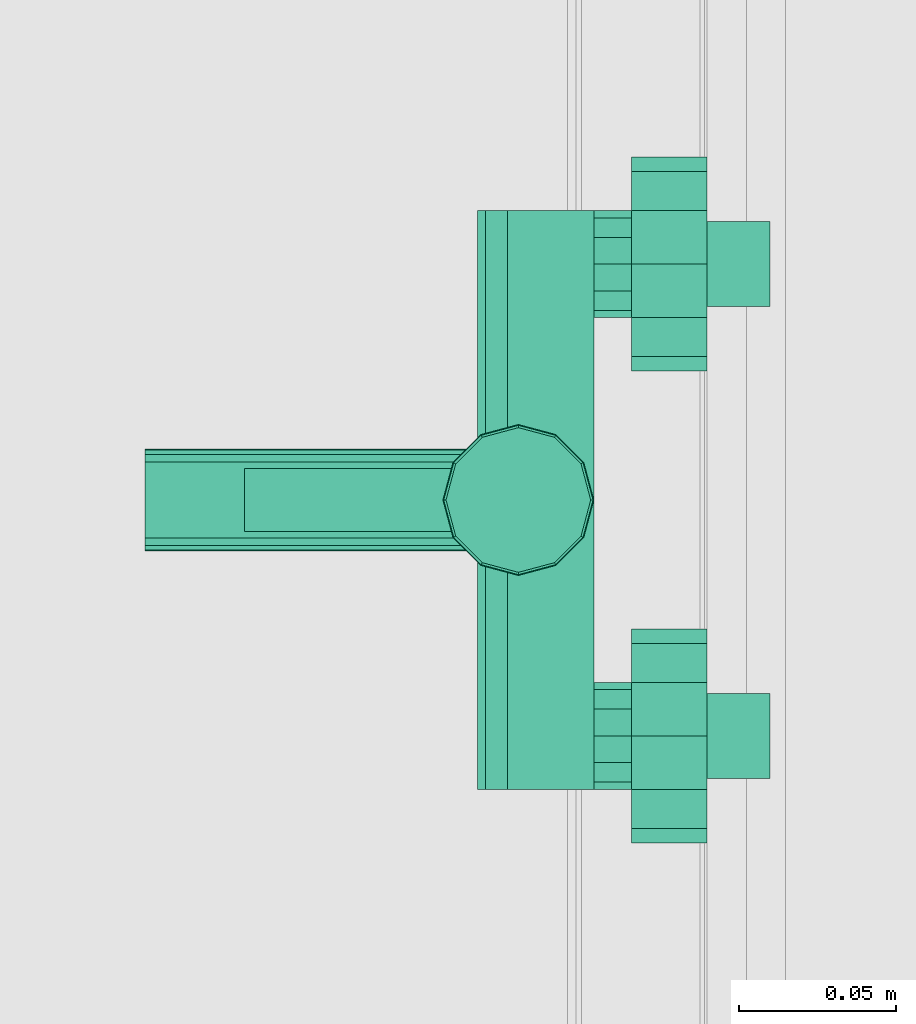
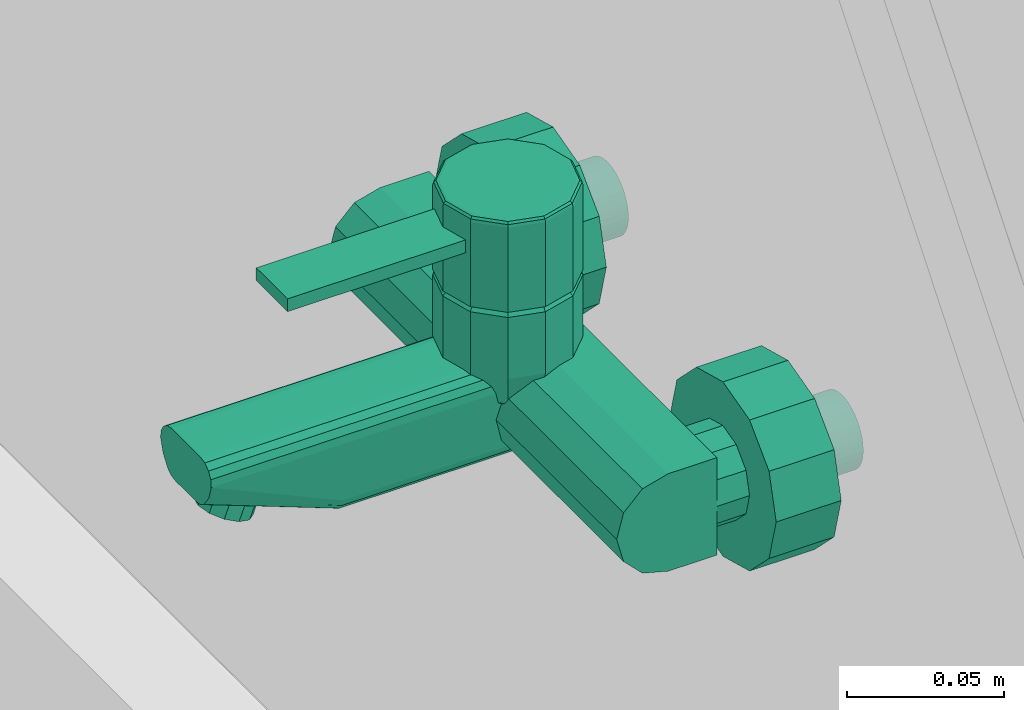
# One storey, part 110 of 137: 1 flow storage device.
"""IFC2X3 building model written with IfcOpenShell, lengths in millimetres."""

from ifc_helpers import new_model, entity, si_unit, converted_unit, derived_unit, money_unit, direction, frame, origin_with_axes, place, context, subcontext, project, spatial, open_shell, faceted_brep, surface_model, source, transform, mapped, type_object, type_shapes, element, save


model = new_model("IFC2X3")

# Units and contexts
model_context = context("Model", 3, precision=0.01, world=origin_with_axes(), true_north=direction((0.0, 1.0)))
body_context = subcontext(model_context, "Body", "Model", "MODEL_VIEW")
ifc_project = project(units=[si_unit("LENGTHUNIT", "METRE", prefix="MILLI"), si_unit("AREAUNIT", "SQUARE_METRE"), si_unit("VOLUMEUNIT", "CUBIC_METRE"), converted_unit("PLANEANGLEUNIT", "DEGREE", entity("IfcPlaneAngleMeasure", 0.0174532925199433), si_unit("PLANEANGLEUNIT", "RADIAN"), dimensions=[0, 0, 0, 0, 0, 0, 0]), money_unit("EUR"), converted_unit("TIMEUNIT", "Year", entity("IfcTimeMeasure", 31556926.0), si_unit("TIMEUNIT", "SECOND"), dimensions=[0, 0, 1, 0, 0, 0, 0]), si_unit("MASSUNIT", "GRAM", prefix="KILO"), si_unit("THERMODYNAMICTEMPERATUREUNIT", "DEGREE_CELSIUS"), si_unit("LUMINOUSINTENSITYUNIT", "LUMEN"), si_unit("ENERGYUNIT", "JOULE", prefix="MEGA"), derived_unit("THERMALCONDUCTANCEUNIT", [(si_unit("POWERUNIT", "WATT"), 1), (si_unit("LENGTHUNIT", "METRE"), -1), (si_unit("THERMODYNAMICTEMPERATUREUNIT", "KELVIN"), -1)]), derived_unit("SPECIFICHEATCAPACITYUNIT", [(si_unit("ENERGYUNIT", "JOULE"), 1), (si_unit("MASSUNIT", "GRAM", prefix="KILO"), -1), (si_unit("THERMODYNAMICTEMPERATUREUNIT", "KELVIN"), -1)]), derived_unit("MASSDENSITYUNIT", [(si_unit("MASSUNIT", "GRAM", prefix="KILO"), 1), (si_unit("VOLUMEUNIT", "CUBIC_METRE"), -1)])], contexts=[model_context])

# Site, building, storey
site_placement = place(None, origin_with_axes())
site = spatial("IfcSite", under=ifc_project, at=site_placement, Name="Site", CompositionType="ELEMENT")
building_placement = place(site_placement, origin_with_axes())
building = spatial("IfcBuilding", under=site, at=building_placement, Name="Naam gebouw", CompositionType="ELEMENT")
storey_placement = place(building_placement, frame((0.0, 0.0, 3960.0), z_axis=(0.0, 0.0, 1.0), x_axis=(1.0, 0.0, 0.0)))
storey = spatial("IfcBuildingStorey", under=building, at=storey_placement, Name="1e verdieping", CompositionType="ELEMENT", Elevation=3960.0)

# Flow storage device
tank_type = type_object("IfcTankType", Name="Kraan wand 26", PredefinedType="EXPANSION")
shared_shape = source(origin_with_axes(), body_context, "Body", "SurfaceModel", [
    faceted_brep([(-45.55513627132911, 0.0, 1183.0), (-58.00000000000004, 0.0, 1170.555136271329), (-75.00000000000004, 0.0, 1166.0), (-92.00000000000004, 0.0, 1170.555136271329), (-104.4448637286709, 0.0, 1183.0), (-109.0, 0.0, 1200.0), (-104.4448637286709, 0.0, 1217.0), (-92.0, 0.0, 1229.444863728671), (-75.0, 0.0, 1234.0), (-58.0, 0.0, 1229.444863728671), (-45.5551362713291, 0.0, 1217.0), (-41.00000000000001, 0.0, 1200.0), (-45.55513627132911, -24.0, 1183.0), (-58.00000000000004, -24.0, 1170.555136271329), (-75.00000000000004, -24.0, 1166.0), (-92.00000000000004, -24.0, 1170.555136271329), (-104.4448637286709, -24.0, 1183.0), (-109.0, -24.0, 1200.0), (-104.4448637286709, -24.0, 1217.0), (-92.0, -24.0, 1229.444863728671), (-75.0, -24.0, 1234.0), (-58.0, -24.0, 1229.444863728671), (-45.5551362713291, -24.0, 1217.0), (-41.00000000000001, -24.0, 1200.0)], [[[0, 1, 2, 3, 4, 5, 6, 7, 8, 9, 10, 11]], [[1, 0, 12, 13]], [[2, 1, 13, 14]], [[3, 2, 14, 15]], [[4, 3, 15, 16]], [[5, 4, 16, 17]], [[6, 5, 17, 18]], [[7, 6, 18, 19]], [[8, 7, 19, 20]], [[9, 8, 20, 21]], [[10, 9, 21, 22]], [[11, 10, 22, 23]], [[0, 11, 23, 12]], [[12, 23, 22, 21, 20, 19, 18, 17, 16, 15, 14, 13]]]),
    faceted_brep([(-60.27756813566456, -24.0, 1191.5), (-66.50000000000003, -24.0, 1185.277568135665), (-75.00000000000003, -24.0, 1183.0), (-83.50000000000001, -24.0, 1185.277568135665), (-89.72243186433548, -24.0, 1191.5), (-92.00000000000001, -24.0, 1200.0), (-89.72243186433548, -24.0, 1208.5), (-83.5, -24.0, 1214.722431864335), (-75.00000000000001, -24.0, 1217.0), (-66.5, -24.0, 1214.722431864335), (-60.27756813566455, -24.0, 1208.5), (-58.00000000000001, -24.0, 1200.0), (-60.27756813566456, -36.00000000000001, 1191.5), (-66.50000000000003, -36.00000000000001, 1185.277568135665), (-75.00000000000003, -36.00000000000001, 1183.0), (-83.50000000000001, -36.00000000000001, 1185.277568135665), (-89.72243186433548, -36.00000000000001, 1191.5), (-92.00000000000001, -36.00000000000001, 1200.0), (-89.72243186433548, -36.00000000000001, 1208.5), (-83.5, -36.0, 1214.722431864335), (-75.00000000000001, -36.0, 1217.0), (-66.5, -36.0, 1214.722431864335), (-60.27756813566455, -36.00000000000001, 1208.5), (-58.00000000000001, -36.00000000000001, 1200.0)], [[[0, 1, 2, 3, 4, 5, 6, 7, 8, 9, 10, 11]], [[1, 0, 12, 13]], [[2, 1, 13, 14]], [[3, 2, 14, 15]], [[4, 3, 15, 16]], [[5, 4, 16, 17]], [[6, 5, 17, 18]], [[7, 6, 18, 19]], [[8, 7, 19, 20]], [[9, 8, 20, 21]], [[10, 9, 21, 22]], [[11, 10, 22, 23]], [[0, 11, 23, 12]], [[12, 23, 22, 21, 20, 19, 18, 17, 16, 15, 14, 13]]]),
    faceted_brep([(45.55513627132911, 0.0, 1183.0), (41.00000000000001, 0.0, 1200.0), (45.5551362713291, 0.0, 1217.0), (58.0, 0.0, 1229.444863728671), (75.0, 0.0, 1234.0), (92.0, 0.0, 1229.444863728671), (104.4448637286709, 0.0, 1217.0), (109.0, 0.0, 1200.0), (104.4448637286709, 0.0, 1183.0), (92.00000000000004, 0.0, 1170.555136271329), (75.00000000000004, 0.0, 1166.0), (58.00000000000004, 0.0, 1170.555136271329), (45.55513627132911, -24.0, 1183.0), (41.00000000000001, -24.0, 1200.0), (45.5551362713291, -24.0, 1217.0), (58.0, -24.0, 1229.444863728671), (75.0, -24.0, 1234.0), (92.0, -24.0, 1229.444863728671), (104.4448637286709, -24.0, 1217.0), (109.0, -24.0, 1200.0), (104.4448637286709, -24.0, 1183.0), (92.00000000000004, -24.0, 1170.555136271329), (75.00000000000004, -24.0, 1166.0), (58.00000000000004, -24.0, 1170.555136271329)], [[[0, 1, 2, 3, 4, 5, 6, 7, 8, 9, 10, 11]], [[0, 12, 13, 1]], [[1, 13, 14, 2]], [[2, 14, 15, 3]], [[3, 15, 16, 4]], [[4, 16, 17, 5]], [[5, 17, 18, 6]], [[6, 18, 19, 7]], [[7, 19, 20, 8]], [[8, 20, 21, 9]], [[9, 21, 22, 10]], [[10, 22, 23, 11]], [[11, 23, 12, 0]], [[12, 23, 22, 21, 20, 19, 18, 17, 16, 15, 14, 13]]]),
    faceted_brep([(60.27756813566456, -24.0, 1191.5), (58.00000000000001, -24.0, 1200.0), (60.27756813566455, -24.0, 1208.5), (66.5, -24.0, 1214.722431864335), (75.00000000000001, -24.0, 1217.0), (83.5, -24.0, 1214.722431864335), (89.72243186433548, -24.0, 1208.5), (92.00000000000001, -24.0, 1200.0), (89.72243186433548, -24.0, 1191.5), (83.50000000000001, -24.0, 1185.277568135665), (75.00000000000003, -24.0, 1183.0), (66.50000000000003, -24.0, 1185.277568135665), (60.27756813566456, -36.00000000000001, 1191.5), (58.00000000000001, -36.00000000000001, 1200.0), (60.27756813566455, -36.00000000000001, 1208.5), (66.5, -36.0, 1214.722431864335), (75.00000000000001, -36.0, 1217.0), (83.5, -36.0, 1214.722431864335), (89.72243186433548, -36.00000000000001, 1208.5), (92.00000000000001, -36.00000000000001, 1200.0), (89.72243186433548, -36.00000000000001, 1191.5), (83.50000000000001, -36.00000000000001, 1185.277568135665), (75.00000000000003, -36.00000000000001, 1183.0), (66.50000000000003, -36.00000000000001, 1185.277568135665)], [[[0, 1, 2, 3, 4, 5, 6, 7, 8, 9, 10, 11]], [[0, 12, 13, 1]], [[1, 13, 14, 2]], [[2, 14, 15, 3]], [[3, 15, 16, 4]], [[4, 16, 17, 5]], [[5, 17, 18, 6]], [[6, 18, 19, 7]], [[7, 19, 20, 8]], [[8, 20, 21, 9]], [[9, 21, 22, 10]], [[10, 22, 23, 11]], [[11, 23, 12, 0]], [[12, 23, 22, 21, 20, 19, 18, 17, 16, 15, 14, 13]]]),
    faceted_brep([(22.39230484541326, -54.0, 1219.0), (23.56921938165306, -59.99999999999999, 1217.392304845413), (22.3801085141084, -63.5, 1216.454482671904), (92.0, -63.5, 1216.454482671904), (92.0, -54.0, 1219.0), (24.0, -59.99999999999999, 1219.0), (20.78460969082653, -72.0, 1219.0), (18.42264973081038, -70.63632178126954, 1208.821367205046), (18.65321248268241, -70.45448267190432, 1209.5), (92.0, -70.45448267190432, 1209.5), (92.0, -36.00000000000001, 1181.0), (92.0, -36.00000000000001, 1219.0), (92.0, -73.00000000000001, 1200.0), (92.0, -70.45448267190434, 1190.5), (92.0, -63.5, 1183.545517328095), (92.0, -54.00000000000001, 1181.0), (20.78460969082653, -47.99999999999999, 1219.0), (0.0, -36.00000000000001, 1219.0), (12.0, -39.21539030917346, 1219.0), (20.78460969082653, -47.99999999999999, 1243.0), (24.0, -59.99999999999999, 1243.0), (20.78460969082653, -72.0, 1243.0), (17.26794919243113, -71.12435565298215, 1207.0), (12.00000000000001, -80.78460969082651, 1219.0), (11.92314238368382, -80.65148839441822, 1218.426326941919), (12.07189135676, -80.49116546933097, 1218.39470631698), (14.42686544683, -77.50984837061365, 1216.68350539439), (15.88213414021, -75.13176694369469, 1214.16233412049), (16.18602173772, -73.76818909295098, 1211.26720650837), (15.73684210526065, -72.65546274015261, 1207.0), (15.6314139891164, -71.39272474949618, 1205.998432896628), (14.99999999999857, -73.00000000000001, 1200.0), (-92.0, -36.00000000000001, 1181.0), (-92.0, -36.00000000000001, 1219.0), (14.00000000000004, -70.45448267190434, 1190.5), (12.93483876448, -64.77581392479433, 1184.82133125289), (11.95567316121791, -63.5, 1183.545517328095), (13.65970594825, -67.22168918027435, 1187.26720650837), (9.206486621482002, -55.73480068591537, 1181.46483844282), (6.698167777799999, -54.00000000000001, 1181.0), (11.38167317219, -60.70880215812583, 1182.79761812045), (-6.698167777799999, -54.00000000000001, 1181.0), (-92.0, -54.00000000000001, 1181.0), (6.698167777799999, -128.7, 1181.0), (-6.698167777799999, -128.7, 1181.0), (0.0, -36.00000000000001, 1243.0), (12.0, -39.21539030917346, 1243.0), (19.05255888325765, -48.99999999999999, 1245.0), (22.0, -59.99999999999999, 1245.0), (19.05255888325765, -71.0, 1245.0), (12.00000000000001, -80.78460969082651, 1243.0), (9.224483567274, -81.52830707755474, 1219.0), (9.224483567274, -178.7, 1219.0), (12.07189135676, -178.7, 1218.39470631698), (14.42686544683, -178.7, 1216.68350539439), (15.88213414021, -178.7, 1214.16233412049), (16.18602173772, -178.7, 1211.26720650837), (13.65970594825, -128.7, 1187.26720650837), (-92.0, -54.0, 1219.0), (-92.0, -63.5, 1183.545517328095), (-92.0, -70.45448267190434, 1190.5), (-92.0, -73.00000000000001, 1200.0), (-92.0, -70.45448267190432, 1209.5), (-92.0, -63.5, 1216.454482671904), (-12.00000000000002, -39.21539030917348, 1219.0), (-22.39230484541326, -54.0, 1219.0), (-20.78460969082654, -48.00000000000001, 1219.0), (12.93483876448, -128.7, 1184.82133125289), (11.38167317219, -128.7, 1182.79761812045), (9.206486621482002, -128.7, 1181.46483844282), (-11.38167317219, -60.70880215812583, 1182.79761812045), (-11.95567316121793, -63.5, 1183.545517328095), (-9.206486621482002, -55.73480068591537, 1181.46483844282), (-6.698167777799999, -156.6122297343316, 1191.606647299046), (6.698167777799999, -156.6122297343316, 1191.606647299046), (5.000000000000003, -155.02481037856, 1191.003427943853), (0.0, -153.7724378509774, 1190.527526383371), (-4.999999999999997, -155.02481037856, 1191.003427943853), (-9.206486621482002, -128.7, 1181.46483844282), (-12.00000000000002, -39.21539030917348, 1243.0), (0.0, -38.00000000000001, 1245.0), (11.0, -40.94744111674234, 1245.0), (-20.78460969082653, -47.99999999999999, 1245.0), (-12.0, -39.21539030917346, 1245.0), (0.0, -36.00000000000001, 1245.0), (12.00000000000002, -39.21539030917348, 1245.0), (20.78460969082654, -48.00000000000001, 1245.0), (24.0, -60.00000000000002, 1245.0), (20.78460969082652, -72.00000000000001, 1245.0), (11.99999999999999, -80.78460969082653, 1245.0), (0.0, -83.99999999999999, 1245.0), (-12.00000000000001, -80.78460969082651, 1245.0), (-20.78460969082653, -72.0, 1245.0), (-24.0, -59.99999999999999, 1245.0), (11.00000000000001, -79.05255888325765, 1245.0), (-11.00000000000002, -40.94744111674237, 1245.0), (-19.05255888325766, -49.00000000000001, 1245.0), (-22.0, -60.00000000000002, 1245.0), (-19.05255888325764, -71.00000000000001, 1245.0), (-10.99999999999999, -79.05255888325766, 1245.0), (0.0, -81.99999999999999, 1245.0), (0.0, -83.99999999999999, 1243.0), (0.0, -83.99999999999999, 1219.0), (-15.88213414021, -178.7, 1214.16233412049), (-16.18602173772, -178.7, 1211.26720650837), (-14.65970594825, -178.7, 1206.26720650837), (-12.93483876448, -178.7, 1203.82133125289), (-11.38167317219, -178.7, 1201.79761812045), (-9.206486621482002, -178.7, 1200.46483844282), (-6.698167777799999, -178.7, 1200.0), (6.698167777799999, -178.7, 1200.0), (9.206486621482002, -178.7, 1200.46483844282), (11.38167317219, -178.7, 1201.79761812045), (12.93483876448, -178.7, 1203.82133125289), (14.65970594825, -178.7, 1206.26720650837), (-9.224483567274, -178.7, 1219.0), (-12.07189135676, -178.7, 1218.39470631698), (-14.42686544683, -178.7, 1216.68350539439), (-9.224483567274, -81.52830707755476, 1219.0), (-13.65970594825, -67.22168918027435, 1187.26720650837), (-14.00000000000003, -70.45448267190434, 1190.5), (-12.93483876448, -64.77581392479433, 1184.82133125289), (-14.99999999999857, -73.00000000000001, 1200.0), (-18.42264973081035, -70.63632178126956, 1208.821367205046), (-18.65321248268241, -70.45448267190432, 1209.5), (-15.63141398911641, -71.39272474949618, 1205.998432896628), (-17.26794919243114, -71.12435565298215, 1207.0), (-22.38010851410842, -63.5, 1216.454482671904), (-23.56921938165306, -60.00000000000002, 1217.392304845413), (-24.0, -60.00000000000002, 1219.0), (-24.0, -60.00000000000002, 1243.0), (-20.78460969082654, -48.00000000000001, 1243.0), (9.206486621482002, -160.1976250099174, 1193.433935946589), (8.660254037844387, -158.3256179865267, 1192.621346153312), (9.206486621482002, -165.7342214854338, 1195.537842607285), (10.0, -162.8044792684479, 1194.910741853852), (-11.38167317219, -128.7, 1182.79761812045), (-12.93483876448, -128.7, 1184.82133125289), (-9.206486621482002, -160.1976250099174, 1193.433935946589), (-8.660254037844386, -158.3256179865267, 1192.621346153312), (8.660254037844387, -160.222444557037, 1187.629697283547), (5.000000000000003, -156.8008991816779, 1186.329510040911), (0.0, -155.5485266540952, 1185.85360848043), (-4.999999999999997, -156.8008991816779, 1186.329510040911), (-8.660254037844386, -160.222444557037, 1187.629697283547), (-20.78460969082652, -47.99999999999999, 1278.0), (-12.0, -39.21539030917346, 1278.0), (0.0, -36.00000000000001, 1278.0), (12.00000000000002, -39.21539030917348, 1278.0), (20.78460969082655, -48.00000000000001, 1278.0), (24.0, -60.00000000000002, 1278.0), (20.78460969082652, -72.00000000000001, 1278.0), (11.99999999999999, -80.78460969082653, 1278.0), (0.0, -83.99999999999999, 1278.0), (0.0, -83.99999999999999, 1270.0), (10.0, -81.32050807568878, 1270.0), (10.0, -81.32050807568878, 1265.0), (0.0, -83.99999999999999, 1265.0), (-10.0, -81.32050807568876, 1265.0), (-10.0, -81.32050807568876, 1270.0), (-12.00000000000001, -80.78460969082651, 1278.0), (-20.78460969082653, -72.0, 1278.0), (-24.0, -59.99999999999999, 1278.0), (-20.78460969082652, -72.00000000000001, 1243.0), (-11.99999999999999, -80.78460969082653, 1243.0), (-11.99999999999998, -80.78460969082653, 1219.0), (-15.88213414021, -75.1317669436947, 1214.16233412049), (-16.18602173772, -73.76818909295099, 1211.26720650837), (-16.18602173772, -128.7, 1211.26720650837), (-13.65970594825, -128.7, 1187.26720650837), (-10.0, -162.8044792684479, 1194.910741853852), (-9.206486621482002, -165.7342214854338, 1195.537842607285), (-8.66025403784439, -167.6734537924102, 1196.173523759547), (-6.698167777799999, -169.6283175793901, 1196.552760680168), (0.0, -172.4681094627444, 1197.631881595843), (4.999999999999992, -171.2157369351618, 1197.155980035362), (6.698167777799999, -169.6283175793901, 1196.552760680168), (-5.000000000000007, -171.2157369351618, 1197.155980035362), (8.660254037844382, -167.6734537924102, 1196.173523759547), (-11.92314238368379, -80.65148839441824, 1218.426326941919), (-12.07189135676, -80.49116546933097, 1218.39470631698), (-14.42686544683, -77.50984837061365, 1216.68350539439), (-15.73684210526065, -72.65546274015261, 1207.0), (-20.78460969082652, -72.00000000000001, 1219.0), (10.0, -164.8963624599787, 1189.405786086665), (8.660254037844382, -169.5702803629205, 1191.181874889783), (-10.0, -164.8963624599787, 1189.405786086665), (4.999999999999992, -172.9918257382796, 1192.48206213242), (0.0, -174.2441982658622, 1192.957963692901), (-5.000000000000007, -172.9918257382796, 1192.48206213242), (-8.66025403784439, -169.5702803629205, 1191.181874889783), (-20.55255888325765, -48.13397459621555, 1279.0), (-11.86602540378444, -39.44744111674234, 1279.0), (0.0, -36.26794919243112, 1279.0), (11.86602540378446, -39.44744111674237, 1279.0), (20.55255888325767, -48.13397459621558, 1279.0), (23.73205080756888, -60.00000000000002, 1279.0), (20.55255888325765, -71.86602540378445, 1279.0), (11.86602540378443, -80.55255888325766, 1279.0), (10.0, -147.0, 1270.0), (-10.0, -147.0, 1270.0), (10.0, -147.0, 1265.0), (-10.0, -147.0, 1265.0), (0.0, -83.73205080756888, 1279.0), (-11.86602540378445, -80.55255888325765, 1279.0), (-20.55255888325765, -71.86602540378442, 1279.0), (-23.73205080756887, -59.99999999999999, 1279.0), (-19.91858428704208, -48.49999999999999, 1279.732050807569), (-11.5, -40.08141571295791, 1279.732050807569), (0.0, -37.00000000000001, 1279.732050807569), (11.50000000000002, -40.08141571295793, 1279.732050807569), (19.9185842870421, -48.50000000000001, 1279.732050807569), (23.0, -60.00000000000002, 1279.732050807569), (19.91858428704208, -71.50000000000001, 1279.732050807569), (11.49999999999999, -79.9185842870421, 1279.732050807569), (0.0, -82.99999999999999, 1279.732050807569), (-11.50000000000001, -79.91858428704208, 1279.732050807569), (-19.91858428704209, -71.5, 1279.732050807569), (-23.0, -59.99999999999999, 1279.732050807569), (-19.05255888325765, -48.99999999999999, 1280.0), (-11.0, -40.94744111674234, 1280.0), (0.0, -38.00000000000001, 1280.0), (11.00000000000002, -40.94744111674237, 1280.0), (19.05255888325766, -49.00000000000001, 1280.0), (22.0, -60.00000000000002, 1280.0), (19.05255888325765, -71.00000000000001, 1280.0), (10.99999999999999, -79.05255888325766, 1280.0), (0.0, -81.99999999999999, 1280.0), (-11.00000000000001, -79.05255888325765, 1280.0), (-19.05255888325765, -71.0, 1280.0), (-22.0, -59.99999999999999, 1280.0), (0.0, -60.0, 1280.0)], [[[0, 1, 2, 3, 4]], [[1, 0, 5]], [[2, 1, 5, 6, 7, 8]], [[2, 8, 9, 3]], [[10, 11, 4, 3, 9, 12, 13, 14, 15]], [[16, 0, 4, 11, 17, 18]], [[0, 16, 19, 20, 5]], [[20, 21, 6, 5]], [[22, 7, 6, 23, 24, 25, 26, 27, 28, 29]], [[30, 31, 12, 9, 8, 7, 22]], [[10, 32, 33, 17, 11]], [[31, 34, 13, 12]], [[35, 36, 14, 13, 34, 37]], [[38, 39, 15, 14, 36, 40]], [[41, 42, 32, 10, 15, 39, 43, 44]], [[18, 17, 45, 46]], [[16, 18, 46, 19]], [[19, 47, 48, 20]], [[20, 48, 49, 21]], [[21, 50, 23, 6]], [[23, 51, 24]], [[52, 53, 25, 24, 51]], [[53, 54, 26, 25]], [[54, 55, 27, 26]], [[56, 28, 27, 55]], [[31, 30, 29, 28, 56, 57, 37, 34]], [[30, 22, 29]], [[58, 33, 32, 42, 59, 60, 61, 62, 63]], [[64, 17, 33, 58, 65, 66]], [[36, 35, 67, 68, 40]], [[35, 37, 57, 67]], [[39, 38, 69, 43]], [[38, 40, 68, 69]], [[70, 71, 59, 42, 41, 72]], [[73, 44, 43, 74, 75, 76, 77]], [[72, 41, 44, 78]], [[17, 64, 79, 45]], [[45, 80, 81, 46]], [[46, 81, 47, 19]], [[82, 83, 84, 85, 86, 87, 88, 89, 90, 91, 92, 93], [94, 49, 48, 47, 81, 80, 95, 96, 97, 98, 99, 100]], [[21, 49, 94, 50]], [[101, 102, 51, 23, 50]], [[103, 104, 105, 106, 107, 108, 109, 110, 111, 112, 113, 114, 56, 55, 54, 53, 52, 115, 116, 117]], [[115, 52, 51, 102, 118]], [[56, 114, 57]], [[119, 120, 60, 59, 71, 121]], [[120, 122, 61, 60]], [[123, 124, 62, 61, 122, 125, 126]], [[124, 127, 63, 62]], [[128, 65, 58, 63, 127]], [[66, 65, 129, 130, 131]], [[64, 66, 131, 79]], [[112, 68, 67, 113]], [[114, 67, 57]], [[74, 43, 69, 132, 133]], [[132, 69, 68, 112, 111, 134, 135]], [[71, 70, 136, 137, 121]], [[70, 72, 78, 136]], [[138, 78, 44, 73, 139]], [[75, 74, 133, 140, 141]], [[142, 76, 75, 141]], [[143, 77, 76, 142]], [[139, 73, 77, 143, 144]], [[79, 95, 80, 45]], [[83, 82, 145, 146]], [[84, 83, 146, 147]], [[85, 84, 147, 148]], [[86, 85, 148, 149]], [[87, 86, 149, 150]], [[88, 87, 150, 151]], [[89, 88, 151, 152]], [[153, 154, 155, 156, 157, 90, 89, 152]], [[158, 159, 154, 153, 160, 91, 90, 157]], [[92, 91, 160, 161]], [[93, 92, 161, 162]], [[82, 93, 162, 145]], [[131, 96, 95, 79]], [[130, 97, 96, 131]], [[163, 98, 97, 130]], [[164, 99, 98, 163]], [[101, 100, 99, 164]], [[50, 94, 100, 101]], [[165, 118, 102, 101, 164]], [[104, 103, 166, 167, 168]], [[105, 104, 168]], [[106, 105, 169]], [[106, 137, 136, 107]], [[107, 136, 78, 138, 170, 171, 108]], [[171, 172, 173, 109, 108]], [[174, 175, 176, 110, 109, 173, 177]], [[176, 178, 134, 111, 110]], [[114, 113, 67]], [[116, 115, 118, 179, 180]], [[117, 116, 180, 181]], [[103, 117, 181, 166]], [[120, 119, 169, 168, 167, 182, 125, 122]], [[119, 121, 137, 169]], [[124, 123, 183, 129, 128, 127]], [[126, 125, 182]], [[123, 126, 182, 167, 166, 181, 180, 179, 165, 183]], [[65, 128, 129]], [[163, 130, 129, 183]], [[133, 132, 135, 184, 140]], [[135, 134, 178, 185, 184]], [[170, 138, 139, 144, 186]], [[140, 184, 185, 187, 188, 189, 190, 186, 144, 143, 142, 141]], [[146, 145, 191, 192]], [[147, 146, 192, 193]], [[148, 147, 193, 194]], [[149, 148, 194, 195]], [[150, 149, 195, 196]], [[151, 150, 196, 197]], [[152, 151, 197, 198]], [[199, 155, 154, 159, 200]], [[201, 156, 155, 199]], [[158, 157, 156, 201, 202]], [[153, 152, 198, 203]], [[200, 159, 158, 202]], [[160, 153, 203, 204]], [[161, 160, 204, 205]], [[162, 161, 205, 206]], [[145, 162, 206, 191]], [[164, 163, 183, 165]], [[165, 179, 118]], [[105, 168, 169]], [[106, 169, 137]], [[172, 171, 170, 186, 190]], [[177, 173, 172, 190, 189]], [[187, 175, 174, 188]], [[178, 176, 175, 187, 185]], [[188, 174, 177, 189]], [[192, 191, 207, 208]], [[193, 192, 208, 209]], [[194, 193, 209, 210]], [[195, 194, 210, 211]], [[196, 195, 211, 212]], [[197, 196, 212, 213]], [[198, 197, 213, 214]], [[199, 200, 202, 201]], [[203, 198, 214, 215]], [[204, 203, 215, 216]], [[205, 204, 216, 217]], [[206, 205, 217, 218]], [[191, 206, 218, 207]], [[208, 207, 219, 220]], [[209, 208, 220, 221]], [[210, 209, 221, 222]], [[211, 210, 222, 223]], [[212, 211, 223, 224]], [[213, 212, 224, 225]], [[214, 213, 225, 226]], [[215, 214, 226, 227]], [[216, 215, 227, 228]], [[217, 216, 228, 229]], [[218, 217, 229, 230]], [[207, 218, 230, 219]], [[220, 219, 231]], [[221, 220, 231]], [[222, 221, 231]], [[223, 222, 231]], [[224, 223, 231]], [[225, 224, 231]], [[226, 225, 231]], [[227, 226, 231]], [[228, 227, 231]], [[229, 228, 231]], [[230, 229, 231]], [[219, 230, 231]]]),
    surface_model("IfcShellBasedSurfaceModel", [(-75.0, 0.0, 1186.5), (-77.34425039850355, 0.0, 1186.705095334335), (-77.34425039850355, 20.0, 1186.705095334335), (-75.0, 20.0, 1186.5), (-79.61727193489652, 0.0, 1187.31414961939), (-79.61727193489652, 20.0, 1187.31414961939), (-72.65574960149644, 0.0, 1186.705095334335), (-72.65574960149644, 20.0, 1186.705095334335), (-81.74999999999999, 0.0, 1188.30865704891), (-81.74999999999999, 20.0, 1188.30865704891), (-70.38272806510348, 0.0, 1187.31414961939), (-70.38272806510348, 20.0, 1187.31414961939), (-83.67763273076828, 0.0, 1189.658400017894), (-83.67763273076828, 20.0, 1189.658400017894), (-68.25, 0.0, 1188.30865704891), (-68.25, 20.0, 1188.30865704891), (-85.34159998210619, 0.0, 1191.322367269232), (-85.34159998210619, 20.0, 1191.322367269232), (-66.32236726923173, 0.0, 1189.658400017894), (-66.32236726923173, 20.0, 1189.658400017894), (-86.69134295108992, 0.0, 1193.25), (-86.69134295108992, 20.0, 1193.25), (-64.65840001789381, 0.0, 1191.322367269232), (-64.65840001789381, 20.0, 1191.322367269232), (-87.68585038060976, 0.0, 1195.382728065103), (-87.68585038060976, 20.0, 1195.382728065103), (-63.30865704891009, 0.0, 1193.25), (-63.30865704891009, 20.0, 1193.25), (-88.2949046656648, 0.0, 1197.655749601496), (-88.2949046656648, 20.0, 1197.655749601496), (-62.31414961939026, 0.0, 1195.382728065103), (-62.31414961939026, 20.0, 1195.382728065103), (-88.5, 0.0, 1200.0), (-88.5, 20.0, 1200.0), (-61.7050953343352, 0.0, 1197.655749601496), (-61.7050953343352, 20.0, 1197.655749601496), (-88.2949046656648, 0.0, 1202.344250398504), (-88.2949046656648, 20.0, 1202.344250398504), (-61.50000000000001, 0.0, 1200.0), (-61.50000000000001, 20.0, 1200.0), (-87.68585038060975, 0.0, 1204.617271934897), (-87.68585038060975, 20.0, 1204.617271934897), (-61.7050953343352, 0.0, 1202.344250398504), (-61.7050953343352, 20.0, 1202.344250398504), (-86.69134295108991, 0.0, 1206.75), (-86.69134295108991, 20.0, 1206.75), (-62.31414961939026, 0.0, 1204.617271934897), (-62.31414961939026, 20.0, 1204.617271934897), (-85.34159998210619, 0.0, 1208.677632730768), (-85.34159998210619, 20.0, 1208.677632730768), (-63.30865704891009, 0.0, 1206.75), (-63.30865704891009, 20.0, 1206.75), (-83.67763273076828, 0.0, 1210.341599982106), (-83.67763273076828, 20.0, 1210.341599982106), (-64.6584000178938, 0.0, 1208.677632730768), (-64.6584000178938, 20.0, 1208.677632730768), (-81.74999999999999, 0.0, 1211.69134295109), (-81.74999999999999, 20.0, 1211.69134295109), (-66.32236726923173, 0.0, 1210.341599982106), (-66.32236726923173, 20.0, 1210.341599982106), (-79.61727193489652, 0.0, 1212.68585038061), (-79.61727193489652, 20.0, 1212.68585038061), (-68.25, 0.0, 1211.69134295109), (-68.25, 20.0, 1211.69134295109), (-77.34425039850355, 0.0, 1213.294904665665), (-77.34425039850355, 20.0, 1213.294904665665), (-70.38272806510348, 0.0, 1212.68585038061), (-70.38272806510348, 20.0, 1212.68585038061), (-75.0, 0.0, 1213.5), (-75.0, 20.0, 1213.5), (-72.65574960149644, 0.0, 1213.294904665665), (-72.65574960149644, 20.0, 1213.294904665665)], [open_shell([[[0, 1, 2, 3]], [[1, 4, 5, 2]], [[6, 0, 3, 7]], [[4, 8, 9, 5]], [[10, 6, 7, 11]], [[8, 12, 13, 9]], [[14, 10, 11, 15]], [[12, 16, 17, 13]], [[18, 14, 15, 19]], [[16, 20, 21, 17]], [[22, 18, 19, 23]], [[20, 24, 25, 21]], [[26, 22, 23, 27]], [[24, 28, 29, 25]], [[30, 26, 27, 31]], [[28, 32, 33, 29]], [[34, 30, 31, 35]], [[32, 36, 37, 33]], [[38, 34, 35, 39]], [[36, 40, 41, 37]], [[42, 38, 39, 43]], [[40, 44, 45, 41]], [[46, 42, 43, 47]], [[44, 48, 49, 45]], [[50, 46, 47, 51]], [[48, 52, 53, 49]], [[54, 50, 51, 55]], [[52, 56, 57, 53]], [[58, 54, 55, 59]], [[56, 60, 61, 57]], [[62, 58, 59, 63]], [[60, 64, 65, 61]], [[66, 62, 63, 67]], [[64, 68, 69, 65]], [[70, 66, 67, 71]], [[68, 70, 71, 69]]])]),
    surface_model("IfcShellBasedSurfaceModel", [(75.0, 0.0, 1186.5), (72.65574960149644, 0.0, 1186.705095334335), (72.65574960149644, 20.0, 1186.705095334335), (75.0, 20.0, 1186.5), (70.38272806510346, 0.0, 1187.31414961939), (70.38272806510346, 20.0, 1187.31414961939), (77.34425039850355, 0.0, 1186.705095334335), (77.34425039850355, 20.0, 1186.705095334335), (68.25, 0.0, 1188.30865704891), (68.25, 20.0, 1188.30865704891), (79.61727193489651, 0.0, 1187.31414961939), (79.61727193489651, 20.0, 1187.31414961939), (66.32236726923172, 0.0, 1189.658400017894), (66.32236726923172, 20.0, 1189.658400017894), (81.74999999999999, 0.0, 1188.30865704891), (81.74999999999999, 20.0, 1188.30865704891), (64.6584000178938, 0.0, 1191.322367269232), (64.6584000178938, 20.0, 1191.322367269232), (83.67763273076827, 0.0, 1189.658400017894), (83.67763273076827, 20.0, 1189.658400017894), (63.30865704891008, 0.0, 1193.25), (63.30865704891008, 20.0, 1193.25), (85.34159998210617, 0.0, 1191.322367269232), (85.34159998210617, 20.0, 1191.322367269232), (62.31414961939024, 0.0, 1195.382728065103), (62.31414961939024, 20.0, 1195.382728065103), (86.69134295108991, 0.0, 1193.25), (86.69134295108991, 20.0, 1193.25), (61.70509533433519, 0.0, 1197.655749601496), (61.70509533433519, 20.0, 1197.655749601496), (87.68585038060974, 0.0, 1195.382728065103), (87.68585038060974, 20.0, 1195.382728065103), (61.5, 0.0, 1200.0), (61.5, 20.0, 1200.0), (88.29490466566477, 0.0, 1197.655749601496), (88.29490466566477, 20.0, 1197.655749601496), (61.70509533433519, 0.0, 1202.344250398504), (61.70509533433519, 20.0, 1202.344250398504), (88.49999999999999, 0.0, 1200.0), (88.49999999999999, 20.0, 1200.0), (62.31414961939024, 0.0, 1204.617271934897), (62.31414961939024, 20.0, 1204.617271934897), (88.29490466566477, 0.0, 1202.344250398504), (88.29490466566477, 20.0, 1202.344250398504), (63.30865704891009, 0.0, 1206.75), (63.30865704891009, 20.0, 1206.75), (87.68585038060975, 0.0, 1204.617271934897), (87.68585038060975, 20.0, 1204.617271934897), (64.6584000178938, 0.0, 1208.677632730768), (64.6584000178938, 20.0, 1208.677632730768), (86.69134295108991, 0.0, 1206.75), (86.69134295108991, 20.0, 1206.75), (66.32236726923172, 0.0, 1210.341599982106), (66.32236726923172, 20.0, 1210.341599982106), (85.34159998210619, 0.0, 1208.677632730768), (85.34159998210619, 20.0, 1208.677632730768), (68.25, 0.0, 1211.69134295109), (68.25, 20.0, 1211.69134295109), (83.67763273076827, 0.0, 1210.341599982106), (83.67763273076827, 20.0, 1210.341599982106), (70.38272806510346, 0.0, 1212.68585038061), (70.38272806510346, 20.0, 1212.68585038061), (81.74999999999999, 0.0, 1211.69134295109), (81.74999999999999, 20.0, 1211.69134295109), (72.65574960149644, 0.0, 1213.294904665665), (72.65574960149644, 20.0, 1213.294904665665), (79.61727193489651, 0.0, 1212.68585038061), (79.61727193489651, 20.0, 1212.68585038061), (75.0, 0.0, 1213.5), (75.0, 20.0, 1213.5), (77.34425039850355, 0.0, 1213.294904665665), (77.34425039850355, 20.0, 1213.294904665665)], [open_shell([[[0, 1, 2, 3]], [[1, 4, 5, 2]], [[6, 0, 3, 7]], [[4, 8, 9, 5]], [[10, 6, 7, 11]], [[8, 12, 13, 9]], [[14, 10, 11, 15]], [[12, 16, 17, 13]], [[18, 14, 15, 19]], [[16, 20, 21, 17]], [[22, 18, 19, 23]], [[20, 24, 25, 21]], [[26, 22, 23, 27]], [[24, 28, 29, 25]], [[30, 26, 27, 31]], [[28, 32, 33, 29]], [[34, 30, 31, 35]], [[32, 36, 37, 33]], [[38, 34, 35, 39]], [[36, 40, 41, 37]], [[42, 38, 39, 43]], [[40, 44, 45, 41]], [[46, 42, 43, 47]], [[44, 48, 49, 45]], [[50, 46, 47, 51]], [[48, 52, 53, 49]], [[54, 50, 51, 55]], [[52, 56, 57, 53]], [[58, 54, 55, 59]], [[56, 60, 61, 57]], [[62, 58, 59, 63]], [[60, 64, 65, 61]], [[66, 62, 63, 67]], [[64, 68, 69, 65]], [[70, 66, 67, 71]], [[68, 70, 71, 69]]])]),
])
type_shapes(tank_type, [shared_shape])
flow_storage_device_placement = place(storey_placement, frame((21539.99903999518, 16814.99778166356, 0.0), z_axis=(0.0, 0.0, 1.0), x_axis=(0.0, -1.0, 0.0)))
element("IfcFlowStorageDevice", 1, at=flow_storage_device_placement, inside=storey, type_object=tank_type, Name="56_Leeg", context=body_context, shape_type="MappedRepresentation", body=[
    mapped(shared_shape, transform((0.0, 0.0, 0.0))),
])

save(model, "model.ifc")
